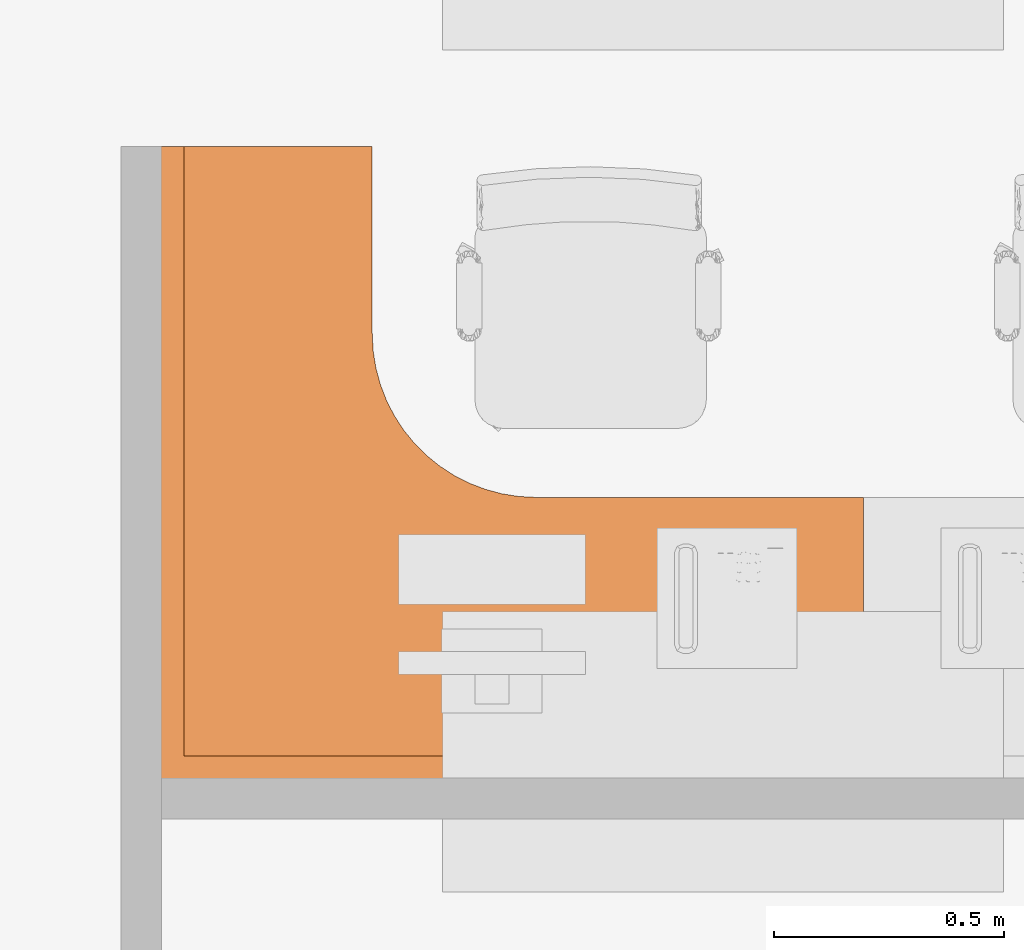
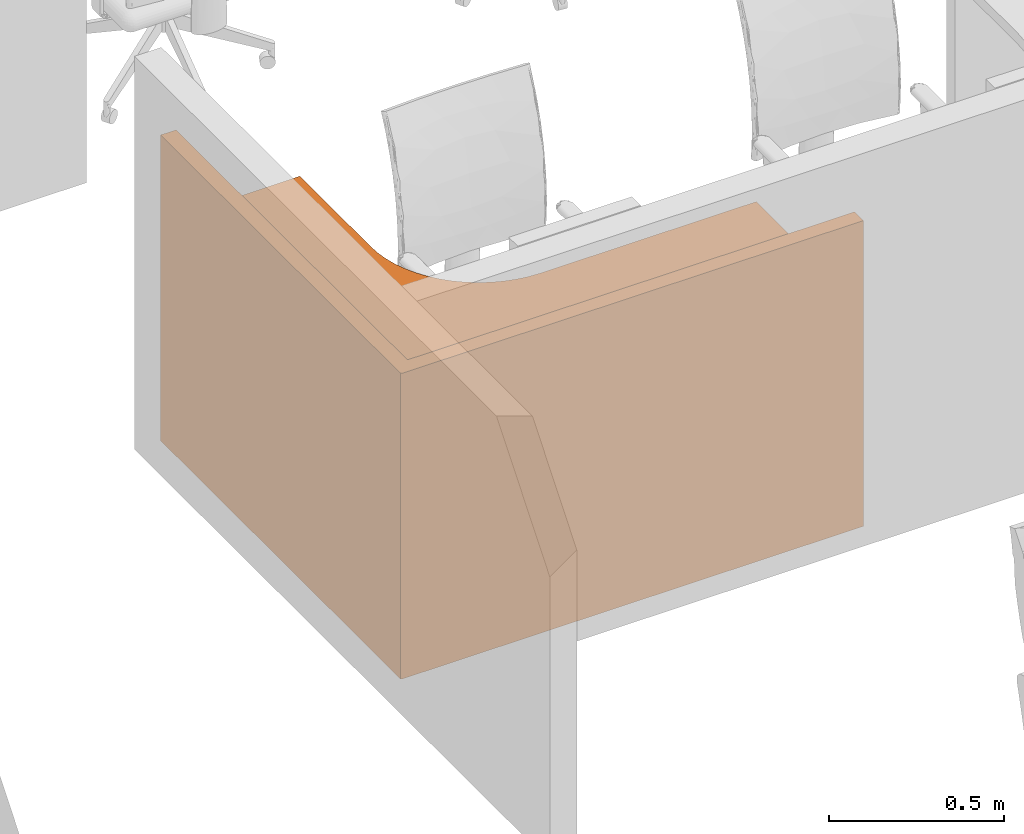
# One storey, part 54 of 142: 1 proxy.
"""IFC2X3 building model written with IfcOpenShell, lengths in feet."""

from ifc_helpers import new_model, entity, si_unit, converted_unit, derived_unit, direction, frame, frame_2d, origin, origin_2d_with_axis, place, context, subcontext, project, spatial, polyline, circle_curve, parameter, trimmed, segment, composite_curve, rectangle, outline, extrude, source, transform, mapped, type_object, type_shapes, element, save


model = new_model("IFC2X3")

# Units and contexts
model_context = context("Model", 3, precision=0.0001, world=origin(), true_north=direction((6.12303176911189e-17, 1.0)))
body_context = subcontext(model_context, "Body", "Model", "MODEL_VIEW")
ifc_project = project(units=[converted_unit("LENGTHUNIT", "FOOT", entity("IfcRatioMeasure", 0.3048), si_unit("LENGTHUNIT", "METRE"), dimensions=[1, 0, 0, 0, 0, 0, 0]), converted_unit("AREAUNIT", "SQUARE FOOT", entity("IfcRatioMeasure", 0.09290304), si_unit("AREAUNIT", "SQUARE_METRE"), dimensions=[2, 0, 0, 0, 0, 0, 0]), converted_unit("VOLUMEUNIT", "CUBIC FOOT", entity("IfcRatioMeasure", 0.028316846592), si_unit("VOLUMEUNIT", "CUBIC_METRE"), dimensions=[3, 0, 0, 0, 0, 0, 0]), converted_unit("PLANEANGLEUNIT", "DEGREE", entity("IfcRatioMeasure", 0.0174532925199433), si_unit("PLANEANGLEUNIT", "RADIAN"), dimensions=[0, 0, 0, 0, 0, 0, 0]), si_unit("MASSUNIT", "GRAM", prefix="KILO"), derived_unit("MASSDENSITYUNIT", [(si_unit("MASSUNIT", "GRAM", prefix="KILO"), 1), (si_unit("LENGTHUNIT", "METRE"), -3)]), si_unit("TIMEUNIT", "SECOND"), si_unit("FREQUENCYUNIT", "HERTZ"), si_unit("THERMODYNAMICTEMPERATUREUNIT", "DEGREE_CELSIUS"), derived_unit("THERMALTRANSMITTANCEUNIT", [(si_unit("MASSUNIT", "GRAM", prefix="KILO"), 1), (si_unit("THERMODYNAMICTEMPERATUREUNIT", "KELVIN"), -1), (si_unit("TIMEUNIT", "SECOND"), -3)]), derived_unit("VOLUMETRICFLOWRATEUNIT", [(si_unit("LENGTHUNIT", "METRE"), 3), (si_unit("TIMEUNIT", "SECOND"), -1)]), si_unit("ELECTRICCURRENTUNIT", "AMPERE"), si_unit("ELECTRICVOLTAGEUNIT", "VOLT"), si_unit("POWERUNIT", "WATT"), si_unit("FORCEUNIT", "NEWTON"), si_unit("ILLUMINANCEUNIT", "LUX"), si_unit("LUMINOUSFLUXUNIT", "LUMEN"), si_unit("LUMINOUSINTENSITYUNIT", "CANDELA"), derived_unit("USERDEFINED", [(si_unit("MASSUNIT", "GRAM", prefix="KILO"), -1), (si_unit("LENGTHUNIT", "METRE"), -2), (si_unit("TIMEUNIT", "SECOND"), 3), (si_unit("LUMINOUSFLUXUNIT", "LUMEN"), 1)]), derived_unit("LINEARVELOCITYUNIT", [(si_unit("LENGTHUNIT", "METRE"), 1), (si_unit("TIMEUNIT", "SECOND"), -1)]), si_unit("PRESSUREUNIT", "PASCAL"), derived_unit("USERDEFINED", [(si_unit("LENGTHUNIT", "METRE"), -2), (si_unit("MASSUNIT", "GRAM", prefix="KILO"), 1), (si_unit("TIMEUNIT", "SECOND"), -2)])], contexts=[model_context])

# Site, building, storey, space
site_placement = place(None, origin())
site = spatial("IfcSite", under=ifc_project, at=site_placement, Name="Default", CompositionType="ELEMENT")
building_placement = place(site_placement, origin())
building = spatial("IfcBuilding", under=site, at=building_placement, Name="OUTPATIENT / PACT CLINIC (Ch. 265)", CompositionType="ELEMENT")
storey_placement = place(building_placement, origin())
storey = spatial("IfcBuildingStorey", under=building, at=storey_placement, Name="LEVEL 1", CompositionType="ELEMENT", Elevation=0.0)
space_placement = place(storey_placement, origin())
space = spatial("IfcSpace", under=storey, at=space_placement, Name="WRTM1", CompositionType="ELEMENT", InteriorOrExteriorSpace="INTERNAL")

# Proxy
building_element_proxy_type = type_object("IfcBuildingElementProxyType", Name="U0075 - Workstation, L-Shaped, Freestanding, 60x54", PredefinedType="NOTDEFINED")
shared_shape = source(origin(), body_context, "Body", "SweptSolid", [
    extrude(rectangle(XDim=0.166666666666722, YDim=2.0, at=frame_2d((-1.3836154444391e-14, 0.0), x_axis=(1.0, 0.0))), frame((0.0833333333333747, -1.0, 0.0), z_axis=(0.0, 0.0, 1.0), x_axis=(-1.0, 0.0, 0.0)), (0.0, 0.0, 1.0), 2.375),
    extrude(rectangle(XDim=0.166666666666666, YDim=1.5, at=frame_2d((0.0, -4.44089209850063e-16), x_axis=(1.0, 0.0))), frame((4.25000000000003, -4.41666666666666, 0.0), z_axis=(0.0, 0.0, 1.0), x_axis=(0.0, 1.0, 0.0)), (0.0, 0.0, 1.0), 2.37499999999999),
    extrude(outline(composite_curve([segment(polyline([(-2.23809523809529, -2.3095238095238), (2.7619047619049, -2.3095238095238)]), True, "CONTINUOUS"), segment(polyline([(2.7619047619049, -2.3095238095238), (2.7619047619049, -0.309523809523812)]), True, "CONTINUOUS"), segment(polyline([(2.7619047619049, -0.309523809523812), (0.428571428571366, -0.309523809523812)]), True, "CONTINUOUS"), segment(trimmed(circle_curve(frame_2d((0.428571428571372, 0.857142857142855), x_axis=(1.0, 0.0)), 1.16666666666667), [parameter(180.0)], [parameter(270.0)], True, "PARAMETER"), False, "CONTINUOUS"), segment(polyline([(-0.738095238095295, 0.857142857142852), (-0.738095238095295, 2.19047619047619)]), True, "CONTINUOUS"), segment(polyline([(-0.738095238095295, 2.19047619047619), (-2.23809523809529, 2.19047619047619)]), True, "CONTINUOUS"), segment(polyline([(-2.23809523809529, 2.19047619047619), (-2.23809523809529, -2.3095238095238)]), True, "CONTINUOUS")], self_intersect=False)), frame((2.76190476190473, -2.30952380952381, 2.37499999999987), z_axis=(0.0, 0.0, 1.0), x_axis=(-1.0, 0.0, 0.0)), (0.0, 0.0, 1.0), 0.125),
    extrude(outline(polyline([(-2.16666666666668, -2.16666666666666), (2.83333333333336, -2.16666666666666), (2.83333333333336, -0.16666666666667), (-0.666666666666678, -0.16666666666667), (-0.666666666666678, 2.33333333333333), (-2.16666666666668, 2.33333333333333), (-2.16666666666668, -2.16666666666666)])), frame((2.83333333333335, -2.16666666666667, 2.37499999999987), z_axis=(0.0, 0.0, 1.0), x_axis=(-1.0, 0.0, 0.0)), (0.0, 0.0, 1.0), 0.125),
    extrude(rectangle(XDim=5.00000000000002, YDim=0.166666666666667, at=origin_2d_with_axis()), frame((2.49999999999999, -0.075000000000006, 0.0), z_axis=(0.0, 0.0, 1.0), x_axis=(-1.0, 0.0, 0.0)), (0.0, 0.0, 1.0), 3.5),
    extrude(rectangle(XDim=4.50000000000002, YDim=0.166666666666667, at=frame_2d((0.0, 4.44089209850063e-16), x_axis=(1.0, 0.0))), frame((4.92500000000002, -2.25000000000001, 0.0), z_axis=(0.0, 0.0, 1.0), x_axis=(0.0, 1.0, 0.0)), (0.0, 0.0, 1.0), 3.5),
])
type_shapes(building_element_proxy_type, [shared_shape])
proxy_placement = place(space_placement, frame((414.359283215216, -889.420491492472, 0.0), z_axis=(0.0, 0.0, 1.0), x_axis=(-1.0, 0.0, 0.0)))
element("IfcBuildingElementProxy", 1, at=proxy_placement, inside=space, type_object=building_element_proxy_type, Name="U0075 - Workstation, L-Shaped, Freestanding, 60x54:U0075 - Workstation, L-Shaped, Freestanding, 60x54", ObjectType="U0075 - Workstation, L-Shaped, Freestanding, 60x54", context=body_context, shape_type="MappedRepresentation", body=[
    mapped(shared_shape, transform((0.0, 0.0, 0.0), scale=1.0)),
])

save(model, "model.ifc")
